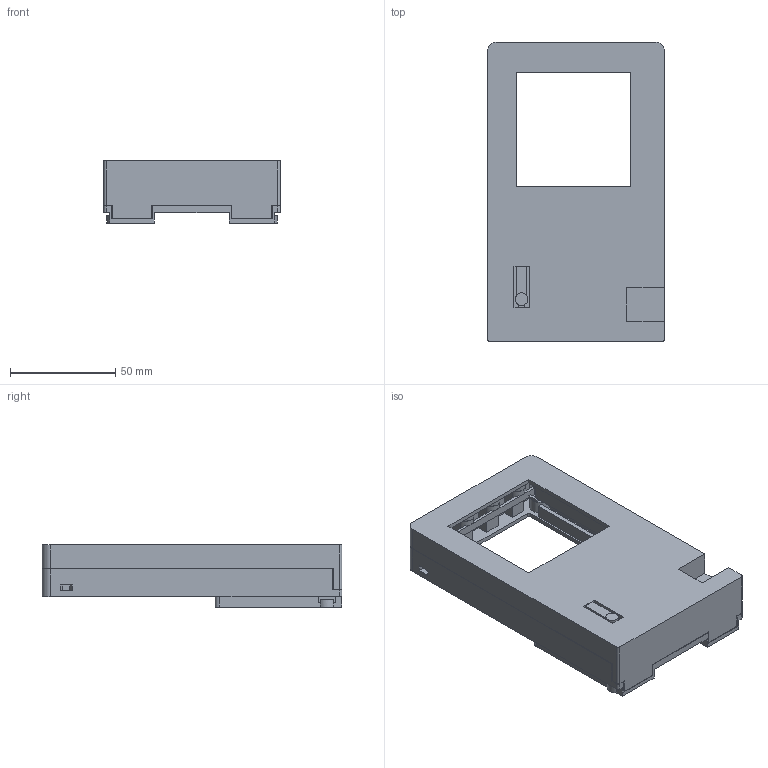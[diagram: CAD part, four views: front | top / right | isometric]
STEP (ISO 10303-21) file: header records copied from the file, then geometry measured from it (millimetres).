
FILE_DESCRIPTION(('FreeCAD Model'),'2;1');
FILE_NAME('Open CASCADE Shape Model','2026-11-05T07:51:58',('FreeCAD'),( 'FreeCAD'),'Open CASCADE STEP processor 7.8','FreeCAD','Unknown');
FILE_SCHEMA(('AUTOMOTIVE_DESIGN { 1 0 10303 214 1 1 1 1 }'));
Length unit declared in the file: millimetre
Products named in the file (1): Open CASCADE STEP translator 7.8 3
Bounding box: 84 x 142.4 x 29.6 mm (x, y, z)
Volume: 71983.8 mm3; surface area: 71594.9 mm2
Topology: 2 solids, 2 shells, 473 faces, 1357 edges, 909 vertices
Faces by surface type: plane 397, cylinder 76
Full cylindrical faces by diameter (mm): 3.4 x6, 3.6 x1, 5.4 x16, 6 x1, 7.4 x8
Entity records: 15425 total; most frequent: CARTESIAN_POINT 2740, ORIENTED_EDGE 2714, DIRECTION 2499, EDGE_CURVE 1357, LINE 1163, VECTOR 1163, VERTEX_POINT 909, AXIS2_PLACEMENT_3D 668
